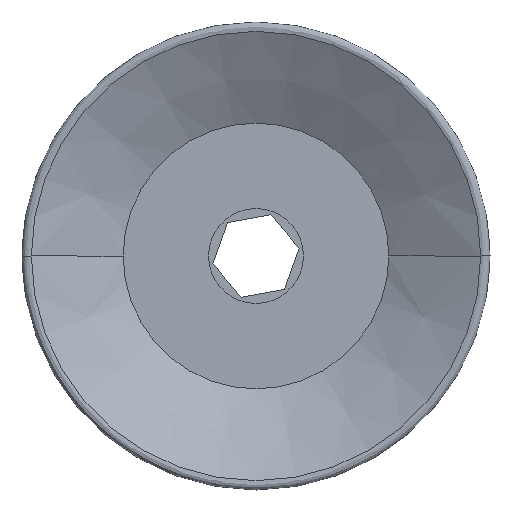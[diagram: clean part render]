
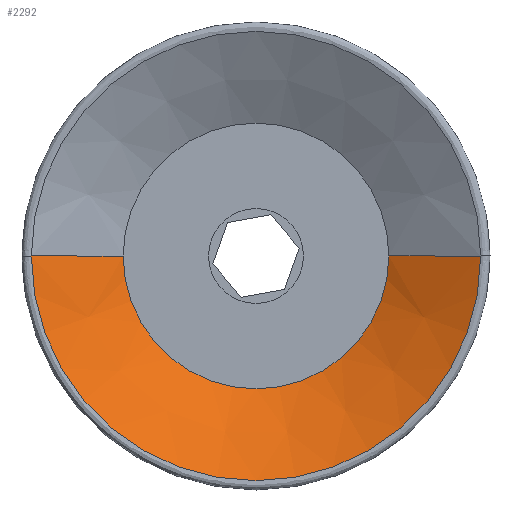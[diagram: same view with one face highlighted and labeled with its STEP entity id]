
A CAD part, front view. The second image highlights one B-rep face of the part: STEP entity #2292.
In plain terms, the highlighted conical face has half-angle 61.52 degrees and reference radius 17.762 mm.
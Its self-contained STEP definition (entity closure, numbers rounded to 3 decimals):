
#436 = ORIENTED_EDGE ( 'NONE', *, *, #2633, .F. ) ;
#829 = VERTEX_POINT ( 'NONE', #10414 ) ;
#863 = EDGE_CURVE ( 'NONE', #829, #8699, #12228, .T. ) ;
#1065 = ORIENTED_EDGE ( 'NONE', *, *, #3687, .F. ) ;
#1651 = CONICAL_SURFACE ( 'NONE', #13427, 17.762, 1.074 ) ;
#2024 = DIRECTION ( 'NONE',  ( 0., -1., 0. ) ) ;
#2207 = EDGE_LOOP ( 'NONE', ( #436, #12245, #5675, #1065 ) ) ;
#2292 = ADVANCED_FACE ( 'NONE', ( #4187 ), #1651, .F. ) ;
#2424 = LINE ( 'NONE', #11138, #3316 ) ;
#2633 = EDGE_CURVE ( 'NONE', #8614, #13356, #6322, .T. ) ;
#3029 = CARTESIAN_POINT ( 'NONE',  ( 0., -15.139, 0. ) ) ;
#3316 = VECTOR ( 'NONE', #11208, 1000. ) ;
#3687 = EDGE_CURVE ( 'NONE', #13356, #829, #10596, .T. ) ;
#4037 = VECTOR ( 'NONE', #8696, 1000. ) ;
#4187 = FACE_OUTER_BOUND ( 'NONE', #2207, .T. ) ;
#4254 = DIRECTION ( 'NONE',  ( 0., -1., 0. ) ) ;
#5290 = CARTESIAN_POINT ( 'NONE',  ( 0., -15.139, 0. ) ) ;
#5675 = ORIENTED_EDGE ( 'NONE', *, *, #863, .F. ) ;
#6322 = CIRCLE ( 'NONE', #12145, 10.5 ) ;
#8366 = DIRECTION ( 'NONE',  ( 0., 1., 0. ) ) ;
#8487 = DIRECTION ( 'NONE',  ( 1., 0., 0. ) ) ;
#8614 = VERTEX_POINT ( 'NONE', #9105 ) ;
#8696 = DIRECTION ( 'NONE',  ( 0.879, -0.477, 0. ) ) ;
#8699 = VERTEX_POINT ( 'NONE', #12471 ) ;
#9105 = CARTESIAN_POINT ( 'NONE',  ( -10.5, -11.2, 0. ) ) ;
#9280 = DIRECTION ( 'NONE',  ( -1., 0., 0. ) ) ;
#10414 = CARTESIAN_POINT ( 'NONE',  ( 17.762, -15.139, 0. ) ) ;
#10547 = EDGE_CURVE ( 'NONE', #8614, #8699, #2424, .T. ) ;
#10596 = LINE ( 'NONE', #11163, #4037 ) ;
#11138 = CARTESIAN_POINT ( 'NONE',  ( -17.762, -15.139, 0. ) ) ;
#11163 = CARTESIAN_POINT ( 'NONE',  ( 17.762, -15.139, 0. ) ) ;
#11208 = DIRECTION ( 'NONE',  ( -0.879, -0.477, 0. ) ) ;
#11581 = CARTESIAN_POINT ( 'NONE',  ( 0., -11.2, 0. ) ) ;
#11775 = AXIS2_PLACEMENT_3D ( 'NONE', #3029, #8366, #9280 ) ;
#12110 = CARTESIAN_POINT ( 'NONE',  ( 10.5, -11.2, 0. ) ) ;
#12145 = AXIS2_PLACEMENT_3D ( 'NONE', #11581, #2024, #12682 ) ;
#12228 = CIRCLE ( 'NONE', #11775, 17.762 ) ;
#12245 = ORIENTED_EDGE ( 'NONE', *, *, #10547, .T. ) ;
#12471 = CARTESIAN_POINT ( 'NONE',  ( -17.762, -15.139, 0. ) ) ;
#12682 = DIRECTION ( 'NONE',  ( 1., 0., 0. ) ) ;
#13356 = VERTEX_POINT ( 'NONE', #12110 ) ;
#13427 = AXIS2_PLACEMENT_3D ( 'NONE', #5290, #4254, #8487 ) ;
